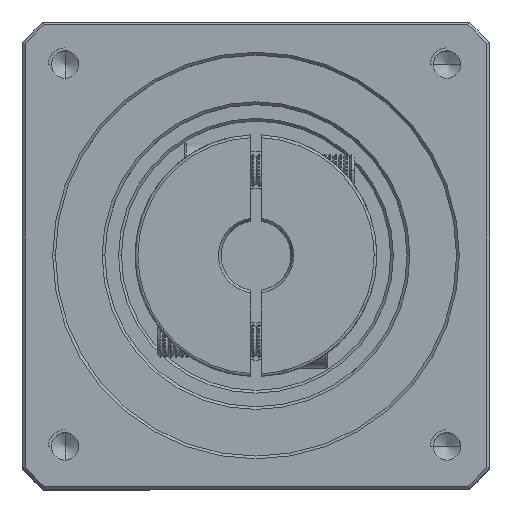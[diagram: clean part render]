
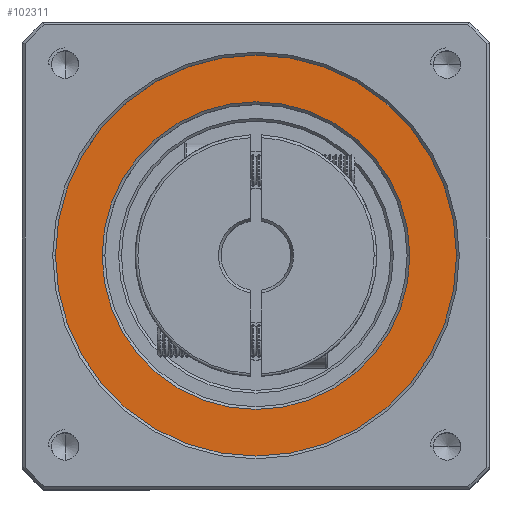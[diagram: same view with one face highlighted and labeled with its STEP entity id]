
A CAD part, top view. The second image highlights one B-rep face of the part: STEP entity #102311.
In plain terms, the highlighted planar face has unit normal (0, 0, 1).
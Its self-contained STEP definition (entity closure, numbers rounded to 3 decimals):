
#1988 = CIRCLE ( 'NONE', #19443, 36.5 ) ;
#4473 = ORIENTED_EDGE ( 'NONE', *, *, #107369, .T. ) ;
#5641 = VERTEX_POINT ( 'NONE', #74628 ) ;
#9588 = AXIS2_PLACEMENT_3D ( 'NONE', #90385, #36714, #99432 ) ;
#14104 = ORIENTED_EDGE ( 'NONE', *, *, #27832, .T. ) ;
#19443 = AXIS2_PLACEMENT_3D ( 'NONE', #82960, #29351, #92021 ) ;
#20982 = VERTEX_POINT ( 'NONE', #56795 ) ;
#27832 = EDGE_CURVE ( 'NONE', #20982, #67813, #115503, .T. ) ;
#29351 = DIRECTION ( 'NONE',  ( 0., 0., 1. ) ) ;
#31017 = FACE_BOUND ( 'NONE', #113150, .T. ) ;
#32506 = VERTEX_POINT ( 'NONE', #37364 ) ;
#35339 = AXIS2_PLACEMENT_3D ( 'NONE', #89880, #36221, #98936 ) ;
#35646 = CARTESIAN_POINT ( 'NONE',  ( 24.696, 4.37, 99.75 ) ) ;
#36221 = DIRECTION ( 'NONE',  ( 0., 0., -1. ) ) ;
#36714 = DIRECTION ( 'NONE',  ( 0., 0., -1. ) ) ;
#37364 = CARTESIAN_POINT ( 'NONE',  ( 52.696, 4.37, 99.75 ) ) ;
#39965 = CARTESIAN_POINT ( 'NONE',  ( 24.696, 4.37, 99.75 ) ) ;
#44655 = DIRECTION ( 'NONE',  ( 1., 0., 0. ) ) ;
#46696 = CARTESIAN_POINT ( 'NONE',  ( 61.196, 4.37, 99.75 ) ) ;
#47565 = ORIENTED_EDGE ( 'NONE', *, *, #88581, .T. ) ;
#49083 = DIRECTION ( 'NONE',  ( 1., 0., 0. ) ) ;
#54881 = FACE_OUTER_BOUND ( 'NONE', #116149, .T. ) ;
#56795 = CARTESIAN_POINT ( 'NONE',  ( -11.804, 4.37, 99.75 ) ) ;
#62311 = PLANE ( 'NONE',  #76404 ) ;
#66643 = CIRCLE ( 'NONE', #9588, 28. ) ;
#67813 = VERTEX_POINT ( 'NONE', #46696 ) ;
#74628 = CARTESIAN_POINT ( 'NONE',  ( -3.304, 4.37, 99.75 ) ) ;
#76404 = AXIS2_PLACEMENT_3D ( 'NONE', #35646, #98375, #44655 ) ;
#76635 = EDGE_CURVE ( 'NONE', #67813, #20982, #1988, .T. ) ;
#82960 = CARTESIAN_POINT ( 'NONE',  ( 24.696, 4.37, 99.75 ) ) ;
#88581 = EDGE_CURVE ( 'NONE', #32506, #5641, #102339, .T. ) ;
#89705 = AXIS2_PLACEMENT_3D ( 'NONE', #39965, #102741, #49083 ) ;
#89880 = CARTESIAN_POINT ( 'NONE',  ( 24.696, 4.37, 99.75 ) ) ;
#90385 = CARTESIAN_POINT ( 'NONE',  ( 24.696, 4.37, 99.75 ) ) ;
#92021 = DIRECTION ( 'NONE',  ( 1., 0., 0. ) ) ;
#98375 = DIRECTION ( 'NONE',  ( 0., 0., 1. ) ) ;
#98936 = DIRECTION ( 'NONE',  ( 1., 0., 0. ) ) ;
#99432 = DIRECTION ( 'NONE',  ( 1., 0., 0. ) ) ;
#102311 = ADVANCED_FACE ( 'NONE', ( #54881, #31017 ), #62311, .T. ) ;
#102339 = CIRCLE ( 'NONE', #35339, 28. ) ;
#102741 = DIRECTION ( 'NONE',  ( 0., 0., 1. ) ) ;
#107369 = EDGE_CURVE ( 'NONE', #5641, #32506, #66643, .T. ) ;
#107470 = ORIENTED_EDGE ( 'NONE', *, *, #76635, .T. ) ;
#113150 = EDGE_LOOP ( 'NONE', ( #47565, #4473 ) ) ;
#115503 = CIRCLE ( 'NONE', #89705, 36.5 ) ;
#116149 = EDGE_LOOP ( 'NONE', ( #107470, #14104 ) ) ;
